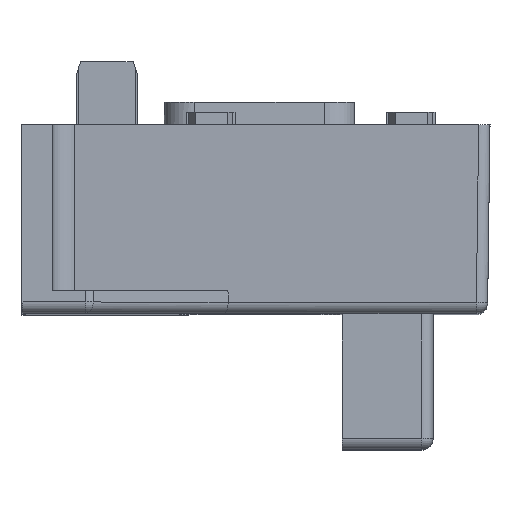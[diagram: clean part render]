
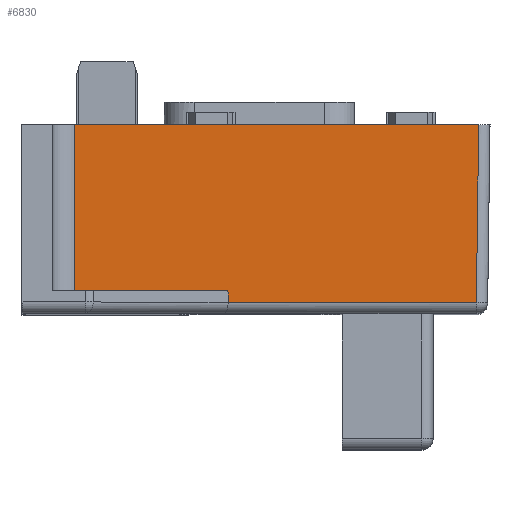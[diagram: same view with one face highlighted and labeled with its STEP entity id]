
A CAD part, top view. The second image highlights one B-rep face of the part: STEP entity #6830.
In plain terms, the highlighted planar face has unit normal (0, -0.013, 1) as drawn and (1, 0, -0.013) by its records, which use the part's own axes.
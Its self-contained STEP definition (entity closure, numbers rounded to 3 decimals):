
#2930=CARTESIAN_POINT('',(54.092,27.508,
1.48));
#2940=VERTEX_POINT('',#2930);
#3030=CARTESIAN_POINT('',(54.092,27.508,1.5));
#3040=VERTEX_POINT('',#3030);
#3070=CARTESIAN_POINT('',(54.092,25.386,1.5));
#3080=DIRECTION('',(1.,0.,-0.013));
#3090=DIRECTION('',(0.,-1.,
0.013));
#3100=AXIS2_PLACEMENT_3D('',#3070,#3080,#3090);
#3110=ELLIPSE('',#3100,2.122,1.5);
#3120=EDGE_CURVE('',#2940,#3040,#3110,.T.);
#3980=CARTESIAN_POINT('',(54.092,0.,1.48));
#3990=DIRECTION('',(0.,1.,0.));
#4000=VECTOR('',#3990,1.);
#4010=LINE('',#3980,#4000);
#4020=CARTESIAN_POINT('',(54.092,60.392,
1.48));
#4030=VERTEX_POINT('',#4020);
#4040=EDGE_CURVE('',#2940,#4030,#4010,.T.);
#5970=CARTESIAN_POINT('',(54.112,7.2,3.));
#5980=VERTEX_POINT('',#5970);
#6030=CARTESIAN_POINT('',(54.112,0.,3.));
#6040=DIRECTION('',(0.,1.,0.));
#6050=VECTOR('',#6040,1.);
#6060=LINE('',#6030,#6050);
#6070=CARTESIAN_POINT('',(54.112,27.488,3.));
#6080=VERTEX_POINT('',#6070);
#6090=EDGE_CURVE('',#5980,#6080,#6060,.T.);
#6450=CARTESIAN_POINT('',(54.4,0.,25.));
#6460=DIRECTION('',(1.,0.,-0.013));
#6470=DIRECTION('',(0.,-1.,0.));
#6480=AXIS2_PLACEMENT_3D('',#6450,#6460,#6470);
#6490=PLANE('',#6480);
#6500=ORIENTED_EDGE('',*,*,#4040,.T.);
#6510=ORIENTED_EDGE('',*,*,#3120,.F.);
#6520=CARTESIAN_POINT('',(54.073,27.527,0.));
#6530=DIRECTION('',(-0.013,0.013,
-1.));
#6540=VECTOR('',#6530,1.);
#6550=LINE('',#6520,#6540);
#6560=EDGE_CURVE('',#6080,#3040,#6550,.T.);
#6570=ORIENTED_EDGE('',*,*,#6560,.T.);
#6580=ORIENTED_EDGE('',*,*,#6090,.T.);
#6590=CARTESIAN_POINT('',(54.073,7.2,0.039));
#6600=DIRECTION('',(-0.013,0.,
-1.));
#6610=VECTOR('',#6600,1.);
#6620=LINE('',#6590,#6610);
#6630=CARTESIAN_POINT('',(54.4,7.2,25.));
#6640=VERTEX_POINT('',#6630);
#6650=EDGE_CURVE('',#6640,#5980,#6620,.T.);
#6660=ORIENTED_EDGE('',*,*,#6650,.T.);
#6670=CARTESIAN_POINT('',(54.4,27.2,25.));
#6680=DIRECTION('',(0.,1.,0.));
#6690=VECTOR('',#6680,1.);
#6700=LINE('',#6670,#6690);
#6710=CARTESIAN_POINT('',(54.4,60.7,25.));
#6720=VERTEX_POINT('',#6710);
#6730=EDGE_CURVE('',#6640,#6720,#6700,.T.);
#6740=ORIENTED_EDGE('',*,*,#6730,.F.);
#6750=CARTESIAN_POINT('',(54.072,60.373,
-0.02));
#6760=DIRECTION('',(-0.013,-0.013,
-1.));
#6770=VECTOR('',#6760,1.);
#6780=LINE('',#6750,#6770);
#6790=EDGE_CURVE('',#6720,#4030,#6780,.T.);
#6800=ORIENTED_EDGE('',*,*,#6790,.F.);
#6810=EDGE_LOOP('',(#6800,#6740,#6660,#6580,#6570,#6510,#6500));
#6820=FACE_OUTER_BOUND('',#6810,.T.);
#6830=ADVANCED_FACE('',(#6820),#6490,.T.);
